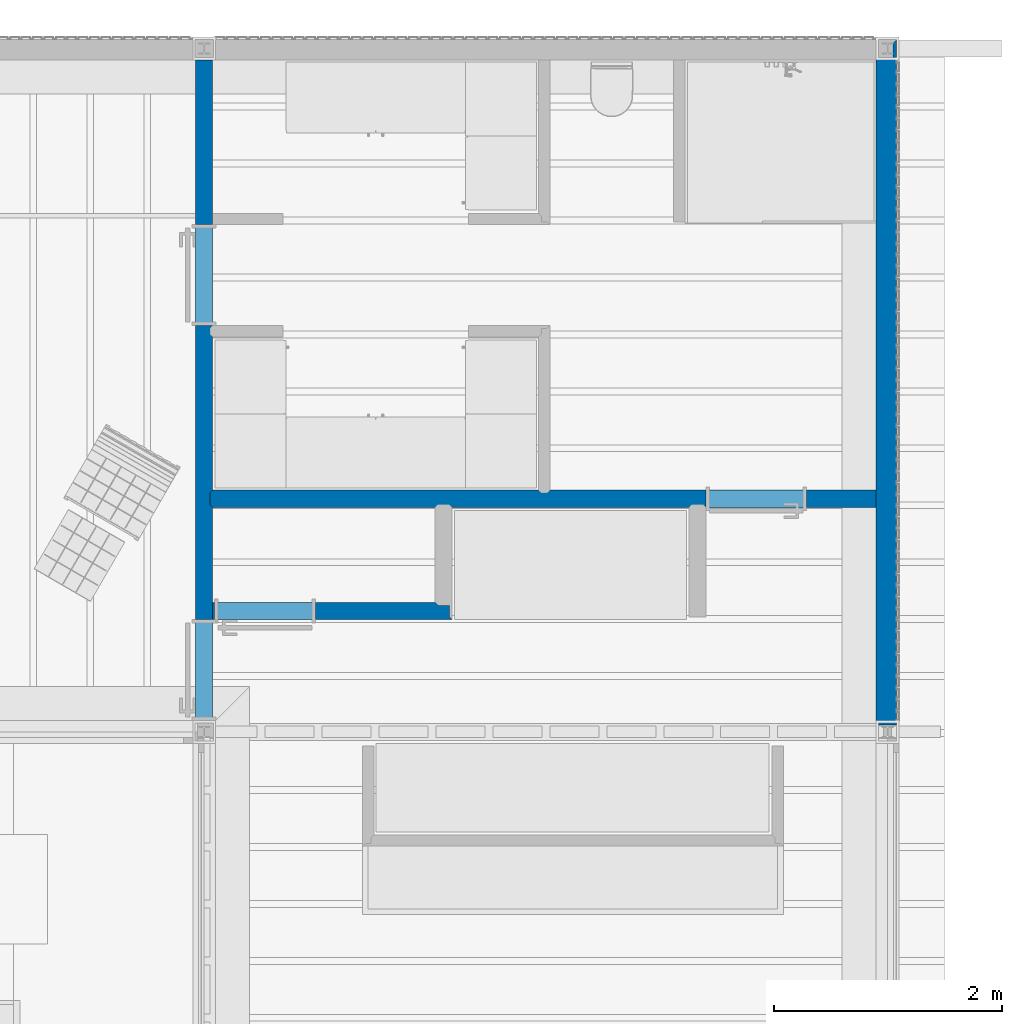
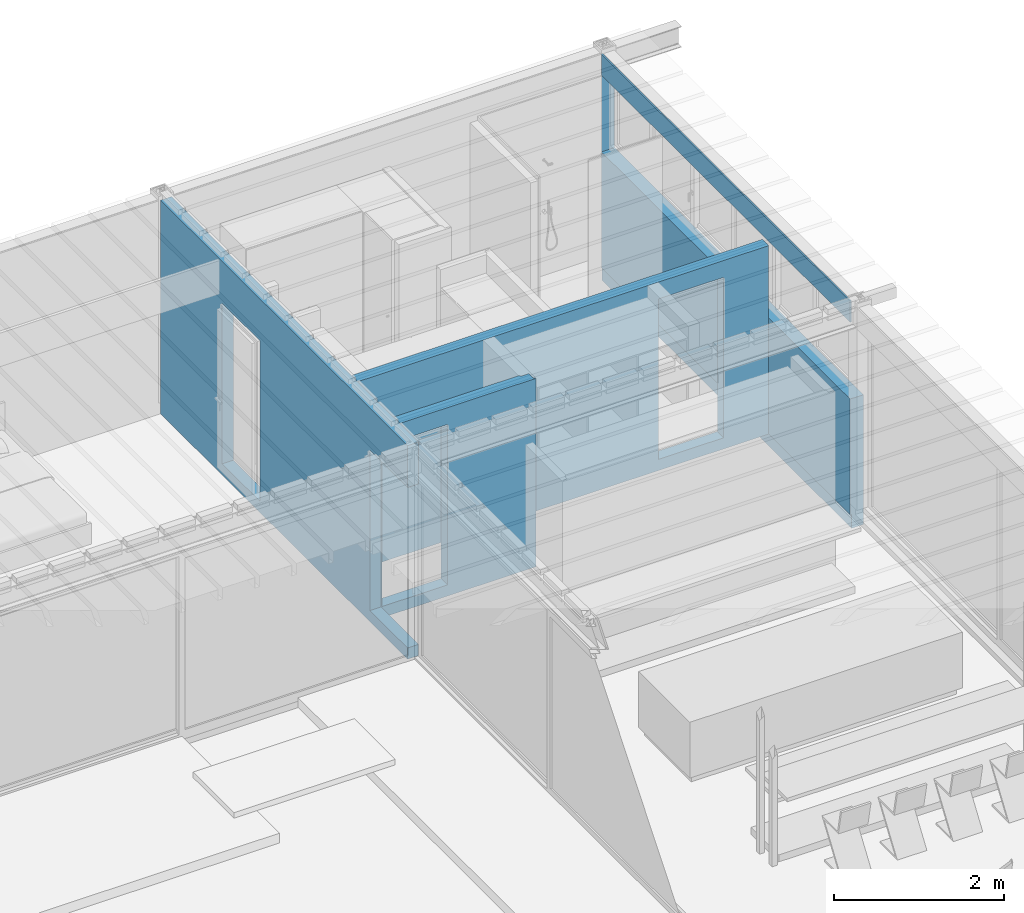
# One storey, part 16 of 28: 4 walls.
"""IFC4X3_ADD2 building model written with IfcOpenShell, lengths in metres."""

from ifc_helpers import new_model, si_unit, direction, frame, origin_with_axes, place, context, subcontext, project, spatial, polyline, outline, extrude, faceted_brep, source, transform, mapped, type_object, type_shapes, element, save


model = new_model("IFC4X3_ADD2")

# Units and contexts
model_context = context("Model", 3, precision=1e-05, world=origin_with_axes(), true_north=direction((0.0, 1.0)))
body_context = subcontext(model_context, "Body", "Model", "MODEL_VIEW")
ifc_project = project(units=[si_unit("LENGTHUNIT", "METRE"), si_unit("AREAUNIT", "SQUARE_METRE"), si_unit("VOLUMEUNIT", "CUBIC_METRE"), si_unit("PLANEANGLEUNIT", "RADIAN"), si_unit("TIMEUNIT", "SECOND"), si_unit("MASSUNIT", "GRAM")], contexts=[model_context])

# Site, building, storey
site_placement = place(None, origin_with_axes())
site = spatial("IfcSite", under=ifc_project, at=site_placement, Name="Site", CompositionType="ELEMENT")
building_placement = place(site_placement, origin_with_axes())
building = spatial("IfcBuilding", under=site, at=building_placement, Name="Default Building")
storey_placement = place(building_placement, frame((0.0, 0.0, -0.08), z_axis=(0.0, 0.0, 1.0), x_axis=(1.0, 0.0, 0.0)))
storey = spatial("IfcBuildingStorey", under=building, at=storey_placement, Name="Gruendung", Elevation=-0.08)

# Walls
wall_type_1 = type_object("IfcWallType", Name="W-CASE Trapez", PredefinedType="NOTDEFINED")
shared_shape_1 = source(origin_with_axes(), body_context, "Body", "SolidModel", [
    faceted_brep([(-0.09, 0.09, 2.76), (-0.058, 0.058, 2.76), (0.09, 0.058, 2.76), (0.09, 0.09, 2.76), (-0.09, 0.09, -0.2), (-0.058, 0.058, -0.2), (5.93, 0.09, -0.2), (5.93, 0.058, -0.2), (0.09, 0.09, 1.66), (5.93, 0.09, 1.66), (0.09, 0.058, 1.66), (5.93, 0.058, 1.66)], [[[0, 1, 2, 3]], [[1, 0, 4, 5]], [[5, 4, 6, 7]], [[0, 3, 8, 9, 6, 4]], [[10, 8, 3, 2]], [[9, 8, 10, 11]], [[7, 11, 10, 2, 1, 5]], [[11, 7, 6, 9]]]),
    extrude(outline(polyline([(-1.94, -1.353333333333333), (-1.96, -1.353333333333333), (-1.96, 1.606666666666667), (3.9, 1.606666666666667), (3.9, -0.2533333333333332), (-1.94, -0.2533333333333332), (-1.94, -1.353333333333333)])), frame((2.03, -0.07, 1.406666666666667), z_axis=(0.0, 1.0, 0.0), x_axis=(1.0, 0.0, 0.0)), (0.0, 0.0, 1.0), 0.128),
    faceted_brep([(5.93, -0.09, 1.66), (5.93, -0.07, 1.66), (0.09, -0.07, 1.66), (0.09, -0.09, 1.66), (0.09, -0.09, 0.0), (5.93, -0.09, 0.0), (0.09, -0.09, 2.76), (0.09, -0.07, 2.76), (5.93, -0.09, 2.76), (5.93, -0.07, 2.76), (5.93, -0.09, 3.06), (0.09, -0.09, 3.06), (5.93, -0.07, 0.0), (5.93, -0.07, 3.06), (0.07, -0.07, 3.06), (0.07, -0.07, 0.0)], [[[0, 1, 2, 3]], [[3, 4, 5, 0]], [[6, 3, 2, 7]], [[8, 6, 7, 9]], [[8, 10, 11, 6]], [[0, 5, 12, 1]], [[13, 10, 8, 9]], [[14, 11, 10, 13]], [[13, 9, 7, 2, 1, 12, 15, 14]], [[15, 4, 3, 6, 11, 14]], [[5, 4, 15, 12]]]),
])
type_shapes(wall_type_1, [shared_shape_1])
wall_1_placement = place(storey_placement, frame((24.99, 21.99, -0.08), z_axis=(0.0, 0.0, 1.0), x_axis=(0.0, -1.0, 0.0)))
element("IfcWall", 1, at=wall_1_placement, inside=storey, type_object=wall_type_1, Name="W-CASE Trapez", ObjectType="W-CASE Trapez", context=body_context, shape_type="MappedRepresentation", body=[
    mapped(shared_shape_1, transform((0.0, 0.0, 0.0))),
])
wall_type_2 = type_object("IfcWallType", Name="Gipsständerwand 15 cm3", PredefinedType="NOTDEFINED")
shared_shape_2 = source(origin_with_axes(), body_context, "Body", "Brep", [
    faceted_brep([(0.0, 0.075, 3.06), (0.0, 0.075, 0.0), (0.0, 0.0625, 0.0), (0.0, 0.0625, 3.06), (5.8, 0.0625, 0.0), (5.8, 0.075, 0.0), (5.8, 0.075, 3.06), (5.8, 0.0625, 3.06), (5.8, 0.0625, 0.16), (5.8, 0.075, 0.16), (5.8, 0.0625, 2.46), (5.8, 0.075, 2.46), (1.446667, 0.075, 2.46), (2.331667, 0.075, 2.46), (2.331667, 0.0625, 2.46), (1.446667, 0.0625, 2.46), (1.446667, 0.075, 0.16), (1.446667, 0.0625, 0.16), (2.331667, 0.075, 0.16), (2.331667, 0.0625, 0.16), (4.915, 0.075, 2.46), (4.915, 0.0625, 2.46), (4.915, 0.0625, 0.16), (4.915, 0.075, 0.16)], [[[0, 1, 2, 3]], [[4, 2, 1, 5]], [[6, 0, 3, 7]], [[8, 4, 5, 9]], [[6, 7, 10, 11]], [[12, 13, 14, 15]], [[16, 12, 15, 17]], [[18, 16, 17, 19]], [[18, 19, 14, 13]], [[20, 11, 10, 21]], [[20, 21, 22, 23]], [[3, 2, 4, 8, 22, 21, 10, 7], [14, 19, 17, 15]], [[9, 23, 22, 8]], [[1, 0, 6, 11, 20, 23, 9, 5], [18, 13, 12, 16]]]),
    faceted_brep([(0.0, 0.05, 0.0), (0.0, 0.05, 3.06), (0.0, 0.0625, 3.06), (0.0, 0.0625, 0.0), (5.8, 0.05, 0.0), (5.8, 0.0625, 0.0), (5.8, 0.0625, 3.06), (5.8, 0.05, 3.06), (5.8, 0.05, 0.16), (5.8, 0.0625, 0.16), (5.8, 0.05, 2.46), (5.8, 0.0625, 2.46), (2.331667, 0.05, 2.46), (1.446667, 0.05, 2.46), (1.446667, 0.0625, 2.46), (2.331667, 0.0625, 2.46), (1.446667, 0.05, 0.16), (1.446667, 0.0625, 0.16), (2.331667, 0.05, 0.16), (2.331667, 0.0625, 0.16), (4.915, 0.0625, 2.46), (4.915, 0.05, 2.46), (4.915, 0.05, 0.16), (4.915, 0.0625, 0.16)], [[[0, 1, 2, 3]], [[4, 0, 3, 5]], [[6, 2, 1, 7]], [[8, 4, 5, 9]], [[6, 7, 10, 11]], [[12, 13, 14, 15]], [[13, 16, 17, 14]], [[16, 18, 19, 17]], [[12, 15, 19, 18]], [[20, 11, 10, 21]], [[20, 21, 22, 23]], [[20, 23, 9, 5, 3, 2, 6, 11], [17, 19, 15, 14]], [[9, 23, 22, 8]], [[7, 1, 0, 4, 8, 22, 21, 10], [18, 16, 13, 12]]]),
    faceted_brep([(0.0, -0.05, 0.0), (0.0, -0.05, 3.06), (0.0, 0.05, 3.06), (0.0, 0.05, 0.0), (5.8, -0.05, 0.0), (5.8, 0.05, 0.0), (5.8, 0.05, 3.06), (5.8, -0.05, 3.06), (5.8, -0.05, 0.16), (5.8, 0.05, 0.16), (5.8, -0.05, 2.46), (5.8, 0.05, 2.46), (2.331667, -0.05, 2.46), (1.446667, -0.05, 2.46), (1.446667, 0.05, 2.46), (2.331667, 0.05, 2.46), (1.446667, -0.05, 0.16), (1.446667, 0.05, 0.16), (2.331667, -0.05, 0.16), (2.331667, 0.05, 0.16), (4.915, 0.05, 2.46), (4.915, -0.05, 2.46), (4.915, -0.05, 0.16), (4.915, 0.05, 0.16)], [[[0, 1, 2, 3]], [[4, 0, 3, 5]], [[6, 2, 1, 7]], [[8, 4, 5, 9]], [[6, 7, 10, 11]], [[12, 13, 14, 15]], [[13, 16, 17, 14]], [[16, 18, 19, 17]], [[12, 15, 19, 18]], [[20, 11, 10, 21]], [[20, 21, 22, 23]], [[20, 23, 9, 5, 3, 2, 6, 11], [17, 19, 15, 14]], [[9, 23, 22, 8]], [[7, 1, 0, 4, 8, 22, 21, 10], [18, 16, 13, 12]]]),
    faceted_brep([(0.0, -0.0625, 0.0), (0.0, -0.0625, 3.06), (0.0, -0.05, 3.06), (0.0, -0.05, 0.0), (5.8, -0.0625, 0.0), (5.8, -0.05, 0.0), (5.8, -0.05, 3.06), (5.8, -0.0625, 3.06), (5.8, -0.0625, 0.16), (5.8, -0.05, 0.16), (5.8, -0.0625, 2.46), (5.8, -0.05, 2.46), (2.331667, -0.0625, 2.46), (1.446667, -0.0625, 2.46), (1.446667, -0.05, 2.46), (2.331667, -0.05, 2.46), (1.446667, -0.0625, 0.16), (1.446667, -0.05, 0.16), (2.331667, -0.0625, 0.16), (2.331667, -0.05, 0.16), (4.915, -0.05, 2.46), (4.915, -0.0625, 2.46), (4.915, -0.0625, 0.16), (4.915, -0.05, 0.16)], [[[0, 1, 2, 3]], [[4, 0, 3, 5]], [[6, 2, 1, 7]], [[8, 4, 5, 9]], [[6, 7, 10, 11]], [[12, 13, 14, 15]], [[13, 16, 17, 14]], [[16, 18, 19, 17]], [[12, 15, 19, 18]], [[20, 11, 10, 21]], [[20, 21, 22, 23]], [[20, 23, 9, 5, 3, 2, 6, 11], [17, 19, 15, 14]], [[9, 23, 22, 8]], [[7, 1, 0, 4, 8, 22, 21, 10], [18, 16, 13, 12]]]),
    faceted_brep([(0.0, -0.075, 0.0), (0.0, -0.075, 3.06), (0.0, -0.0625, 3.06), (0.0, -0.0625, 0.0), (5.8, -0.075, 0.0), (5.8, -0.0625, 0.0), (5.8, -0.0625, 3.06), (5.8, -0.075, 3.06), (5.8, -0.075, 0.16), (5.8, -0.0625, 0.16), (5.8, -0.075, 2.46), (5.8, -0.0625, 2.46), (2.331667, -0.075, 2.46), (1.446667, -0.075, 2.46), (1.446667, -0.0625, 2.46), (2.331667, -0.0625, 2.46), (1.446667, -0.075, 0.16), (1.446667, -0.0625, 0.16), (2.331667, -0.075, 0.16), (2.331667, -0.0625, 0.16), (4.915, -0.075, 2.46), (4.915, -0.0625, 2.46), (4.915, -0.075, 0.16), (4.915, -0.0625, 0.16)], [[[0, 1, 2, 3]], [[4, 0, 3, 5]], [[6, 2, 1, 7]], [[8, 4, 5, 9]], [[6, 7, 10, 11]], [[12, 13, 14, 15]], [[13, 16, 17, 14]], [[16, 18, 19, 17]], [[12, 15, 19, 18]], [[10, 20, 21, 11]], [[22, 23, 21, 20]], [[21, 23, 9, 5, 3, 2, 6, 11], [17, 19, 15, 14]], [[22, 8, 9, 23]], [[7, 1, 0, 4, 8, 22, 20, 10], [18, 16, 13, 12]]]),
])
type_shapes(wall_type_2, [shared_shape_2])
wall_2_placement = place(storey_placement, frame((19.0, 21.9, -0.08), z_axis=(0.0, 0.0, 1.0), x_axis=(0.0, -1.0, 0.0)))
element("IfcWall", 2, at=wall_2_placement, inside=storey, type_object=wall_type_2, Name="Gipsständerwand 15 cm", ObjectType="Gipsständerwand 15 cm", context=body_context, shape_type="MappedRepresentation", body=[
    mapped(shared_shape_2, transform((0.0, 0.0, 0.0))),
])
wall_type_3 = type_object("IfcWallType", Name="Gipsständerwand 15 cm5", PredefinedType="NOTDEFINED")
shared_shape_3 = source(origin_with_axes(), body_context, "Body", "Brep", [
    faceted_brep([(0.075, 0.075, 0.0), (0.075, 0.075, 2.7), (0.0625, 0.0625, 2.7), (0.0625, 0.0625, 0.0), (5.9, 0.0625, 0.0), (5.9, 0.075, 0.0), (5.9, 0.075, 2.7), (5.9, 0.0625, 2.7), (5.29, 0.0625, 2.46), (4.405, 0.0625, 2.46), (4.405, 0.0625, 0.16), (5.29, 0.0625, 0.16), (5.29, 0.075, 0.16), (4.405, 0.075, 0.16), (4.405, 0.075, 2.46), (5.29, 0.075, 2.46)], [[[0, 1, 2, 3]], [[3, 4, 5, 0]], [[1, 6, 7, 2]], [[6, 5, 4, 7]], [[8, 9, 10, 11], [2, 7, 4, 3]], [[12, 13, 14, 15], [0, 5, 6, 1]], [[15, 14, 9, 8]], [[9, 14, 13, 10]], [[13, 12, 11, 10]], [[12, 15, 8, 11]]], outer=[[True], [True], [True], [True], [False, True], [False, True], [True], [True], [True], [True]]),
    faceted_brep([(0.05, 0.05, 2.7), (0.05, 0.05, 0.0), (0.0625, 0.0625, 0.0), (0.0625, 0.0625, 2.7), (5.9, 0.05, 0.0), (5.9, 0.0625, 0.0), (5.29, 0.0625, 0.16), (4.405, 0.0625, 0.16), (4.405, 0.0625, 2.46), (5.29, 0.0625, 2.46), (5.9, 0.0625, 2.7), (5.9, 0.05, 2.7), (5.29, 0.05, 2.46), (4.405, 0.05, 2.46), (4.405, 0.05, 0.16), (5.29, 0.05, 0.16)], [[[0, 1, 2, 3]], [[1, 4, 5, 2]], [[6, 7, 8, 9], [2, 5, 10, 3]], [[3, 10, 11, 0]], [[4, 11, 10, 5]], [[12, 13, 14, 15], [0, 11, 4, 1]], [[9, 8, 13, 12]], [[13, 8, 7, 14]], [[7, 6, 15, 14]], [[6, 9, 12, 15]]], outer=[[True], [True], [False, True], [True], [True], [False, True], [True], [True], [True], [True]]),
    faceted_brep([(0.05, 0.05, 2.7), (0.05, -0.05, 2.7), (0.05, -0.05, 0.0), (0.05, 0.05, 0.0), (5.9, -0.05, 0.0), (5.9, 0.05, 0.0), (5.29, 0.05, 0.16), (4.405, 0.05, 0.16), (4.405, 0.05, 2.46), (5.29, 0.05, 2.46), (5.9, 0.05, 2.7), (5.9, -0.05, 2.7), (5.29, -0.05, 2.46), (4.405, -0.05, 2.46), (4.405, -0.05, 0.16), (5.29, -0.05, 0.16)], [[[0, 1, 2, 3]], [[2, 4, 5, 3]], [[6, 7, 8, 9], [3, 5, 10, 0]], [[0, 10, 11, 1]], [[4, 11, 10, 5]], [[12, 13, 14, 15], [1, 11, 4, 2]], [[9, 8, 13, 12]], [[13, 8, 7, 14]], [[7, 6, 15, 14]], [[6, 9, 12, 15]]], outer=[[True], [True], [False, True], [True], [True], [False, True], [True], [True], [True], [True]]),
    faceted_brep([(0.05, -0.05, 0.0), (0.05, -0.05, 2.7), (0.0625, -0.0625, 2.7), (0.0625, -0.0625, 0.0), (5.9, -0.0625, 0.0), (5.9, -0.05, 0.0), (5.29, -0.05, 0.16), (4.405, -0.05, 0.16), (4.405, -0.05, 2.46), (5.29, -0.05, 2.46), (5.9, -0.05, 2.7), (5.9, -0.0625, 2.7), (5.29, -0.0625, 2.46), (4.405, -0.0625, 2.46), (4.405, -0.0625, 0.16), (5.29, -0.0625, 0.16)], [[[0, 1, 2, 3]], [[3, 4, 5, 0]], [[6, 7, 8, 9], [0, 5, 10, 1]], [[1, 10, 11, 2]], [[4, 11, 10, 5]], [[12, 13, 14, 15], [2, 11, 4, 3]], [[9, 8, 13, 12]], [[13, 8, 7, 14]], [[7, 6, 15, 14]], [[6, 9, 12, 15]]], outer=[[True], [True], [False, True], [True], [True], [False, True], [True], [True], [True], [True]]),
    faceted_brep([(0.075, -0.075, 2.7), (0.075, -0.075, 0.0), (0.0625, -0.0625, 0.0), (0.0625, -0.0625, 2.7), (5.9, -0.075, 0.0), (5.9, -0.0625, 0.0), (5.29, -0.0625, 0.16), (4.405, -0.0625, 0.16), (4.405, -0.0625, 2.46), (5.29, -0.0625, 2.46), (5.9, -0.0625, 2.7), (5.9, -0.075, 2.7), (4.405, -0.075, 2.46), (4.405, -0.075, 0.16), (5.29, -0.075, 0.16), (5.29, -0.075, 2.46)], [[[0, 1, 2, 3]], [[1, 4, 5, 2]], [[6, 7, 8, 9], [2, 5, 10, 3]], [[3, 10, 11, 0]], [[4, 11, 10, 5]], [[12, 13, 14, 15], [1, 0, 11, 4]], [[12, 15, 9, 8]], [[7, 13, 12, 8]], [[14, 13, 7, 6]], [[15, 14, 6, 9]]], outer=[[True], [True], [False, True], [True], [True], [False, True], [True], [True], [True], [True]]),
])
type_shapes(wall_type_3, [shared_shape_3])
wall_3_placement = place(storey_placement, frame((19.0, 18.04666666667, -0.08), z_axis=(0.0, 0.0, 1.0), x_axis=(1.0, 0.0, 0.0)))
element("IfcWall", 3, at=wall_3_placement, inside=storey, type_object=wall_type_3, Name="Gipsständerwand 15 cm", ObjectType="Gipsständerwand 15 cm", context=body_context, shape_type="MappedRepresentation", body=[
    mapped(shared_shape_3, transform((0.0, 0.0, 0.0))),
])
wall_type_4 = type_object("IfcWallType", Name="Gipsständerwand 15 cm17", PredefinedType="NOTDEFINED")
shared_shape_4 = source(origin_with_axes(), body_context, "Body", "Brep", [
    faceted_brep([(2.0275, 0.075, 2.7), (2.0275, 0.075, 0.0), (2.0275, 0.0625, 0.0), (2.0275, 0.0625, 2.7), (-0.0625, 0.0625, 2.7), (-0.075, 0.075, 2.7), (-0.075, 0.075, 0.0), (-0.0625, 0.0625, 0.0), (1.126118, 0.075, 2.46), (2.011118, 0.075, 2.46), (2.011118, 0.075, 0.16), (1.126118, 0.075, 0.16), (1.126118, 0.0625, 2.46), (1.126118, 0.0625, 0.16), (2.011118, 0.0625, 0.16), (2.011118, 0.0625, 2.46)], [[[0, 1, 2, 3]], [[0, 3, 4, 5]], [[6, 5, 4, 7]], [[1, 6, 7, 2]], [[8, 9, 10, 11], [0, 5, 6, 1]], [[12, 13, 14, 15], [7, 4, 3, 2]], [[9, 8, 12, 15]], [[12, 8, 11, 13]], [[11, 10, 14, 13]], [[10, 9, 15, 14]]], outer=[[True], [True], [True], [True], [False, True], [False, True], [True], [True], [True], [True]]),
    faceted_brep([(2.0275, 0.05, 0.0), (2.0275, 0.05, 2.7), (2.0275, 0.0625, 2.7), (2.0275, 0.0625, 0.0), (-0.05, 0.05, 2.7), (-0.0625, 0.0625, 2.7), (-0.05, 0.05, 0.0), (-0.0625, 0.0625, 0.0), (1.126118, 0.05, 2.46), (1.126118, 0.05, 0.16), (2.011118, 0.05, 0.16), (2.011118, 0.05, 2.46), (1.126118, 0.0625, 0.16), (1.126118, 0.0625, 2.46), (2.011118, 0.0625, 2.46), (2.011118, 0.0625, 0.16)], [[[0, 1, 2, 3]], [[4, 5, 2, 1]], [[4, 6, 7, 5]], [[6, 0, 3, 7]], [[8, 9, 10, 11], [6, 4, 1, 0]], [[12, 13, 14, 15], [5, 7, 3, 2]], [[14, 13, 8, 11]], [[8, 13, 12, 9]], [[12, 15, 10, 9]], [[15, 14, 11, 10]]], outer=[[True], [True], [True], [True], [False, True], [False, True], [True], [True], [True], [True]]),
    faceted_brep([(2.0275, -0.05, 0.0), (2.0275, -0.05, 2.7), (2.0275, 0.05, 2.7), (2.0275, 0.05, 0.0), (-0.05, -0.05, 2.7), (-0.05, 0.05, 2.7), (-0.05, -0.05, 0.0), (-0.05, 0.05, 0.0), (1.126118, -0.05, 0.16), (2.011118, -0.05, 0.16), (2.011118, -0.05, 2.46), (1.126118, -0.05, 2.46), (1.126118, 0.05, 0.16), (1.126118, 0.05, 2.46), (2.011118, 0.05, 2.46), (2.011118, 0.05, 0.16)], [[[0, 1, 2, 3]], [[4, 5, 2, 1]], [[5, 4, 6, 7]], [[6, 0, 3, 7]], [[8, 9, 10, 11], [0, 6, 4, 1]], [[12, 13, 14, 15], [5, 7, 3, 2]], [[13, 11, 10, 14]], [[13, 12, 8, 11]], [[15, 9, 8, 12]], [[14, 10, 9, 15]]], outer=[[True], [True], [True], [True], [False, True], [False, True], [True], [True], [True], [True]]),
    faceted_brep([(2.0275, -0.0625, 0.0), (2.0275, -0.0625, 2.7), (2.0275, -0.05, 2.7), (2.0275, -0.05, 0.0), (0.0625, -0.0625, 2.7), (0.05, -0.05, 2.7), (0.05, -0.05, 0.0), (0.0625, -0.0625, 0.0), (1.126118, -0.0625, 2.46), (1.126118, -0.0625, 0.16), (2.011118, -0.0625, 0.16), (2.011118, -0.0625, 2.46), (1.126118, -0.05, 0.16), (1.126118, -0.05, 2.46), (2.011118, -0.05, 2.46), (2.011118, -0.05, 0.16)], [[[0, 1, 2, 3]], [[4, 5, 2, 1]], [[6, 5, 4, 7]], [[7, 0, 3, 6]], [[8, 9, 10, 11], [7, 4, 1, 0]], [[12, 13, 14, 15], [5, 6, 3, 2]], [[14, 13, 8, 11]], [[8, 13, 12, 9]], [[12, 15, 10, 9]], [[15, 14, 11, 10]]], outer=[[True], [True], [True], [True], [False, True], [False, True], [True], [True], [True], [True]]),
    faceted_brep([(2.0275, -0.075, 0.0), (2.0275, -0.075, 2.7), (2.0275, -0.0625, 2.7), (2.0275, -0.0625, 0.0), (0.075, -0.075, 2.7), (0.0625, -0.0625, 2.7), (0.075, -0.075, 0.0), (0.0625, -0.0625, 0.0), (1.126118, -0.0625, 0.16), (1.126118, -0.0625, 2.46), (2.011118, -0.0625, 2.46), (2.011118, -0.0625, 0.16), (1.126118, -0.075, 2.46), (1.126118, -0.075, 0.16), (2.011118, -0.075, 0.16), (2.011118, -0.075, 2.46)], [[[0, 1, 2, 3]], [[4, 5, 2, 1]], [[4, 6, 7, 5]], [[6, 0, 3, 7]], [[8, 9, 10, 11], [5, 7, 3, 2]], [[12, 13, 14, 15], [6, 4, 1, 0]], [[12, 15, 10, 9]], [[8, 13, 12, 9]], [[14, 13, 8, 11]], [[15, 14, 11, 10]]], outer=[[True], [True], [True], [True], [False, True], [False, True], [True], [True], [True], [True]]),
])
type_shapes(wall_type_4, [shared_shape_4])
wall_4_placement = place(storey_placement, frame((21.1025, 17.06, -0.08), z_axis=(0.0, 0.0, 1.0), x_axis=(-1.0, 0.0, 0.0)))
element("IfcWall", 4, at=wall_4_placement, inside=storey, type_object=wall_type_4, Name="Gipsständerwand 15 cm", ObjectType="Gipsständerwand 15 cm", context=body_context, shape_type="MappedRepresentation", body=[
    mapped(shared_shape_4, transform((0.0, 0.0, 0.0))),
])

save(model, "model.ifc")
